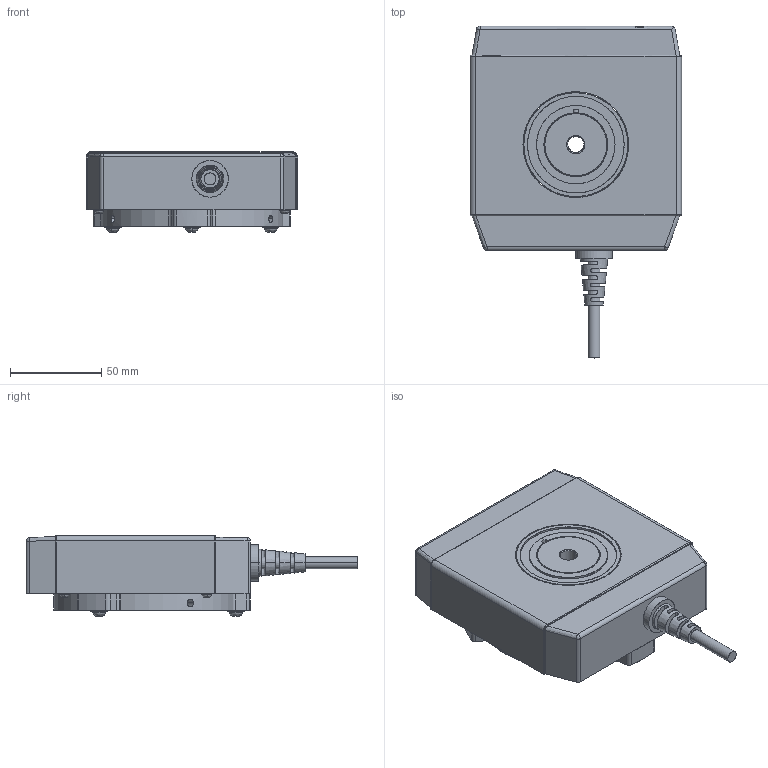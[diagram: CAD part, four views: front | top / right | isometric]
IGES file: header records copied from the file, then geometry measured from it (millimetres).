
Start section: SolidWorks IGES file using analytic representation for surfaces
Bounding box: 116.2 x 182.1 x 44.4 mm (x, y, z)
Surface area: 72375.4 mm2 (no closed solid volume)
Topology: 0 solids, 0 shells, 611 faces, 8126 edges, 8122 vertices
Faces by surface type: bspline 425, revolution 186
